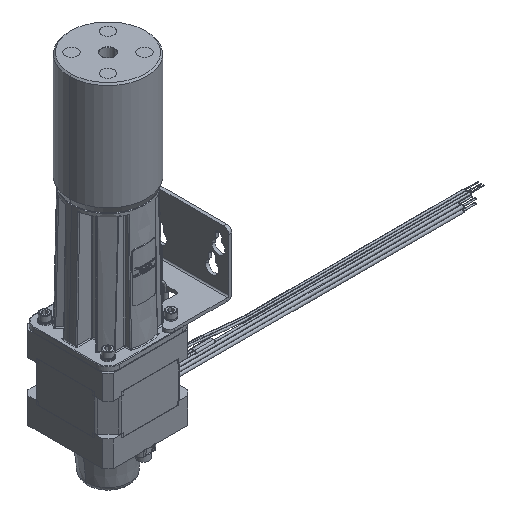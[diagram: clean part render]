
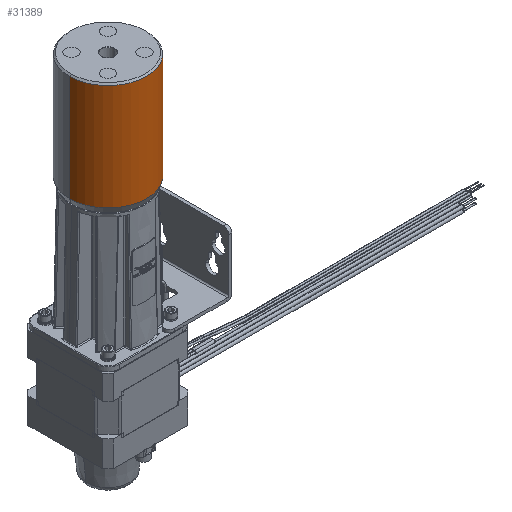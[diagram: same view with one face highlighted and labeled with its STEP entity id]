
A CAD part, isometric view. The second image highlights one B-rep face of the part: STEP entity #31389.
In plain terms, the highlighted cylindrical face has radius 19.05 mm (diameter 38.1 mm), a partial arc.
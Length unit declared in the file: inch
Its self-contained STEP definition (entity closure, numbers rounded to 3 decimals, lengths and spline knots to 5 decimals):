
#6507 = DIRECTION ( 'NONE',  ( 0., 0., -1. ) ) ;
#8176 = EDGE_CURVE ( 'NONE', #49574, #71397, #24441, .T. ) ;
#8294 = DIRECTION ( 'NONE',  ( -1., 0., 0. ) ) ;
#8371 = VERTEX_POINT ( 'NONE', #64857 ) ;
#9060 = VECTOR ( 'NONE', #58273, 39.37008 ) ;
#9215 = EDGE_CURVE ( 'NONE', #8371, #49574, #47848, .T. ) ;
#11421 = CARTESIAN_POINT ( 'NONE',  ( 0., 0., 2.505 ) ) ;
#12301 = LINE ( 'NONE', #35448, #9060 ) ;
#15439 = AXIS2_PLACEMENT_3D ( 'NONE', #53224, #70428, #8294 ) ;
#16041 = ORIENTED_EDGE ( 'NONE', *, *, #8176, .T. ) ;
#22574 = CARTESIAN_POINT ( 'NONE',  ( -0.75, 0., 4.577 ) ) ;
#23689 = CARTESIAN_POINT ( 'NONE',  ( -0.75, 0., 2.527 ) ) ;
#23696 = DIRECTION ( 'NONE',  ( 0., 0., -1. ) ) ;
#23790 = CIRCLE ( 'NONE', #15439, 0.75 ) ;
#24441 = LINE ( 'NONE', #41662, #57482 ) ;
#26425 = ORIENTED_EDGE ( 'NONE', *, *, #9215, .T. ) ;
#31389 = ADVANCED_FACE ( 'NONE', ( #50706 ), #61170, .T. ) ;
#31554 = CARTESIAN_POINT ( 'NONE',  ( 0., 0., 4.577 ) ) ;
#34897 = CARTESIAN_POINT ( 'NONE',  ( 0.75, 0., 2.527 ) ) ;
#35448 = CARTESIAN_POINT ( 'NONE',  ( 0.75, 0., 2.505 ) ) ;
#41351 = AXIS2_PLACEMENT_3D ( 'NONE', #11421, #6507, #68617 ) ;
#41662 = CARTESIAN_POINT ( 'NONE',  ( -0.75, 0., 2.505 ) ) ;
#42402 = EDGE_CURVE ( 'NONE', #71397, #61743, #23790, .T. ) ;
#43112 = AXIS2_PLACEMENT_3D ( 'NONE', #31554, #55097, #48002 ) ;
#45928 = EDGE_LOOP ( 'NONE', ( #71027, #26425, #16041, #50921 ) ) ;
#47848 = CIRCLE ( 'NONE', #43112, 0.75 ) ;
#48002 = DIRECTION ( 'NONE',  ( 1., 0., 0. ) ) ;
#49574 = VERTEX_POINT ( 'NONE', #22574 ) ;
#50706 = FACE_OUTER_BOUND ( 'NONE', #45928, .T. ) ;
#50921 = ORIENTED_EDGE ( 'NONE', *, *, #42402, .T. ) ;
#53224 = CARTESIAN_POINT ( 'NONE',  ( 0., 0., 2.527 ) ) ;
#55097 = DIRECTION ( 'NONE',  ( 0., 0., -1. ) ) ;
#57482 = VECTOR ( 'NONE', #23696, 39.37008 ) ;
#58273 = DIRECTION ( 'NONE',  ( 0., 0., -1. ) ) ;
#61170 = CYLINDRICAL_SURFACE ( 'NONE', #41351, 0.75 ) ;
#61743 = VERTEX_POINT ( 'NONE', #34897 ) ;
#64857 = CARTESIAN_POINT ( 'NONE',  ( 0.75, 0., 4.577 ) ) ;
#68617 = DIRECTION ( 'NONE',  ( -1., 0., 0. ) ) ;
#69924 = EDGE_CURVE ( 'NONE', #8371, #61743, #12301, .T. ) ;
#70428 = DIRECTION ( 'NONE',  ( 0., 0., 1. ) ) ;
#71027 = ORIENTED_EDGE ( 'NONE', *, *, #69924, .F. ) ;
#71397 = VERTEX_POINT ( 'NONE', #23689 ) ;
